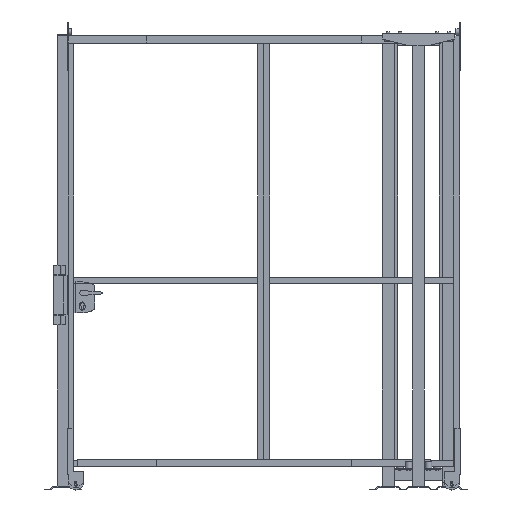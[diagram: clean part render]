
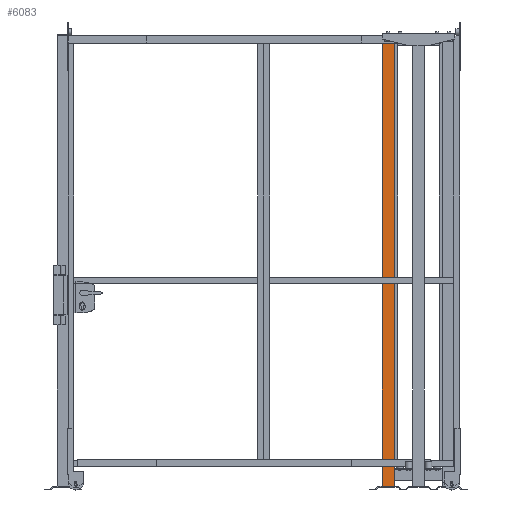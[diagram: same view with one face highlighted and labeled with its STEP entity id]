
A CAD part, front view. The second image highlights one B-rep face of the part: STEP entity #6083.
In plain terms, the highlighted planar face has unit normal (0, -1, 0) as drawn and (-1, 0, 0) by its records, which use the part's own axes.
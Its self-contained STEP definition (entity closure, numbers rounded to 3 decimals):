
#571=FACE_OUTER_BOUND('',#1061,.T.);
#1061=EDGE_LOOP('',(#3712,#3713,#3714,#3715));
#1609=VERTEX_POINT('',#13032);
#1610=VERTEX_POINT('',#13034);
#1613=VERTEX_POINT('',#13041);
#1614=VERTEX_POINT('',#13043);
#2415=EDGE_CURVE('',#1609,#1610,#7157,.T.);
#2419=EDGE_CURVE('',#1613,#1614,#7161,.T.);
#2421=EDGE_CURVE('',#1610,#1613,#7163,.T.);
#2423=EDGE_CURVE('',#1609,#1614,#7165,.T.);
#3712=ORIENTED_EDGE('',*,*,#2423,.T.);
#3713=ORIENTED_EDGE('',*,*,#2419,.F.);
#3714=ORIENTED_EDGE('',*,*,#2421,.F.);
#3715=ORIENTED_EDGE('',*,*,#2415,.F.);
#5663=PLANE('',#9141);
#6083=ADVANCED_FACE('',(#571),#5663,.F.);
#7157=LINE('',#13035,#8231);
#7161=LINE('',#13044,#8235);
#7163=LINE('',#13047,#8237);
#7165=LINE('',#13050,#8239);
#8231=VECTOR('',#10224,1.);
#8235=VECTOR('',#10230,1.);
#8237=VECTOR('',#10234,1.);
#8239=VECTOR('',#10238,1.);
#9141=AXIS2_PLACEMENT_3D('',#13049,#10236,#10237);
#10224=DIRECTION('',(0.,-1.,0.));
#10230=DIRECTION('',(0.,1.,0.));
#10234=DIRECTION('',(0.,0.,-1.));
#10236=DIRECTION('center_axis',(1.,0.,0.));
#10237=DIRECTION('ref_axis',(0.,0.,-1.));
#10238=DIRECTION('',(0.,0.,-1.));
#13032=CARTESIAN_POINT('',(-30.,30.,2320.));
#13034=CARTESIAN_POINT('',(-30.,-30.,2320.));
#13035=CARTESIAN_POINT('',(-30.,0.,2320.));
#13041=CARTESIAN_POINT('',(-30.,-30.,20.));
#13043=CARTESIAN_POINT('',(-30.,30.,20.));
#13044=CARTESIAN_POINT('',(-30.,0.,20.));
#13047=CARTESIAN_POINT('',(-30.,-30.,1170.));
#13049=CARTESIAN_POINT('Origin',(-30.,0.,
1170.));
#13050=CARTESIAN_POINT('',(-30.,30.,1170.));
